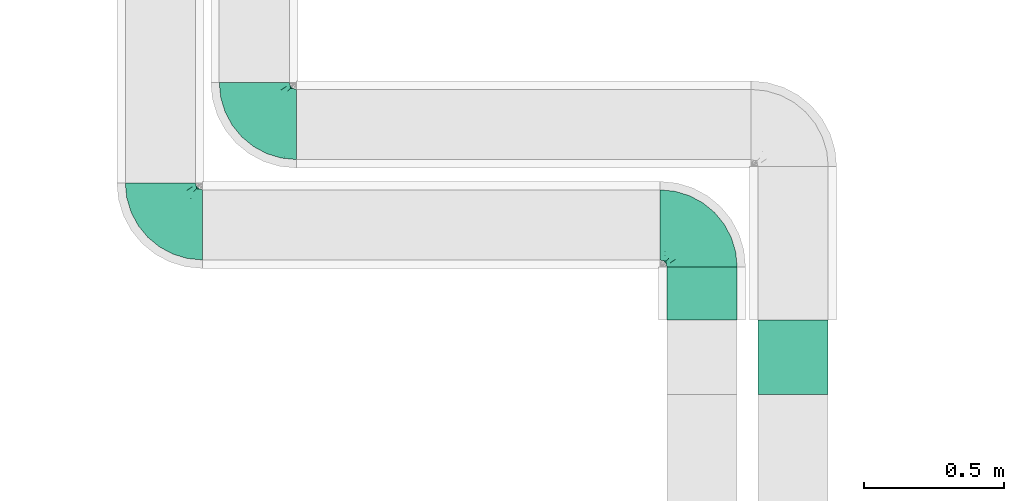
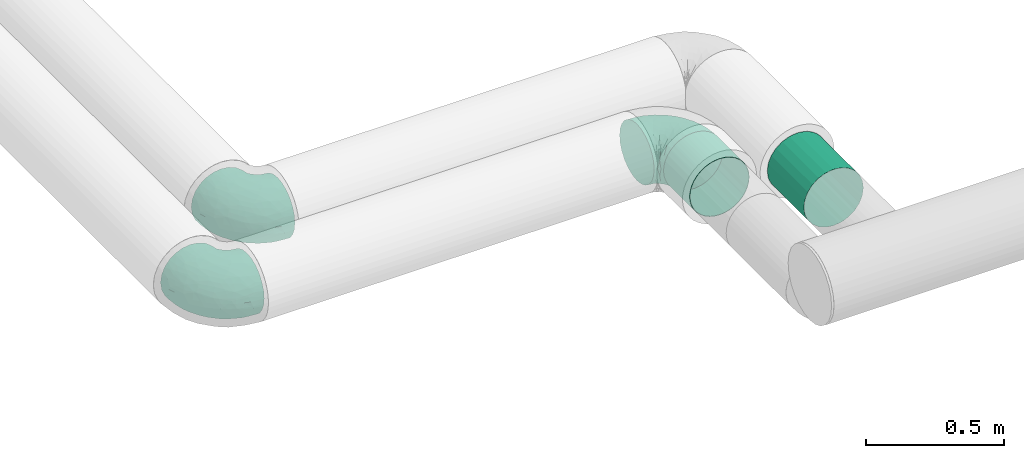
# One storey, part 11 of 36: 3 flow fittings, 1 flow controller, 1 flow segment.
"""IFC2X3 building model written with IfcOpenShell, lengths in millimetres."""

from ifc_helpers import new_model, entity, si_unit, converted_unit, derived_unit, direction, frame, origin_with_axes, origin_2d_with_axis, place, context, subcontext, project, spatial, hollow_circle, extrude, open_shell, surface_model, source, transform, mapped, type_object, element, save


model = new_model("IFC2X3")

# Units and contexts
model_context = context("Model", 3, precision=0.01, world=frame((0.0, 4.29681676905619e-09, 0.0)), true_north=direction((4.01073788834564e-13, 1.0)))
plan_context = context("Plan", 3, precision=0.01, world=frame((0.0, 4.29681676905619e-09, 0.0)), true_north=direction((4.01073788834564e-13, 1.0)))
body_context = subcontext(model_context, "Body", "Model", "MODEL_VIEW")
ifc_project = project(units=[converted_unit("PLANEANGLEUNIT", "DEGREE", entity("IfcPositiveLengthMeasure", 0.0174532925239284), si_unit("PLANEANGLEUNIT", "RADIAN"), dimensions=[0, 0, 0, 0, 0, 0, 0]), si_unit("AREAUNIT", "SQUARE_METRE"), si_unit("LENGTHUNIT", "METRE", prefix="MILLI"), si_unit("MASSUNIT", "GRAM", prefix="KILO"), si_unit("POWERUNIT", "WATT"), si_unit("PRESSUREUNIT", "PASCAL"), si_unit("FORCEUNIT", "NEWTON", prefix="KILO"), si_unit("ELECTRICCURRENTUNIT", "AMPERE"), si_unit("THERMODYNAMICTEMPERATUREUNIT", "DEGREE_CELSIUS"), si_unit("TIMEUNIT", "SECOND"), si_unit("VOLUMEUNIT", "CUBIC_METRE"), derived_unit("LINEARVELOCITYUNIT", [(si_unit("LENGTHUNIT", "METRE"), 1), (si_unit("TIMEUNIT", "SECOND"), -1)]), derived_unit("VOLUMETRICFLOWRATEUNIT", [(si_unit("VOLUMEUNIT", "CUBIC_METRE"), 1), (si_unit("TIMEUNIT", "SECOND"), -1)]), derived_unit("THERMALTRANSMITTANCEUNIT", [(si_unit("POWERUNIT", "WATT"), 1), (si_unit("THERMODYNAMICTEMPERATUREUNIT", "KELVIN"), -1), (si_unit("AREAUNIT", "SQUARE_METRE"), -1)])], contexts=[model_context, plan_context])

# Site, building, storey
site_placement = place(None, frame((0.0, -4.29681676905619e-09, 0.0), z_axis=(0.0, 0.0, 1.0), x_axis=(1.0, 0.0, 0.0)))
site = spatial("IfcSite", under=ifc_project, at=site_placement, CompositionType="ELEMENT")
building_placement = place(site_placement, frame((0.0, 4.29681676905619e-09, 0.0), z_axis=(0.0, 0.0, 1.0), x_axis=(1.0, 0.0, 0.0)))
building = spatial("IfcBuilding", under=site, at=building_placement, Name="mc-building", CompositionType="ELEMENT")
storey_placement = place(building_placement, frame((0.0, 0.0, 204000.0), z_axis=(0.0, 0.0, 1.0), x_axis=(1.0, 0.0, 0.0)))
storey = spatial("IfcBuildingStorey", under=building, at=storey_placement, Name="Nivå D", CompositionType="ELEMENT", Elevation=204000.0)

# Flow controller
damper_type = type_object("IfcDamperType", Name="IGNIS-C-EI60-250", PredefinedType="FIREDAMPER")
shared_shape_1 = source(origin_with_axes(), body_context, "Body", "SurfaceModel", [
    surface_model("IfcShellBasedSurfaceModel", [(132.5, 62.25, -107.82016), (132.5, 88.0348, -88.0348), (132.5, 62.15, -107.64695), (132.5, 32.17121, -120.06458), (132.5, 0.0, -124.3), (132.5, 32.22297, -120.25777), (132.5, 0.0, -124.5), (132.5, 87.89337, -87.89337), (132.5, 120.25777, -32.22297), (132.5, 124.3, 0.0), (132.5, 120.06458, -32.17121), (132.5, 124.5, 0.0), (132.5, 107.82016, -62.25), (132.5, 107.64695, -62.15), (132.5, -32.17121, -120.06458), (132.5, -32.22297, -120.25777), (132.5, -62.15, -107.64695), (132.5, -88.0348, -88.0348), (132.5, -62.25, -107.82016), (132.5, -87.89337, -87.89337), (132.5, -107.64695, -62.15), (132.5, -107.82016, -62.25), (132.5, -120.06458, -32.17121), (132.5, -120.25777, -32.22297), (132.5, -124.3, 0.0), (132.5, -124.5, 0.0), (132.5, 120.25777, 32.22297), (132.5, 120.06458, 32.17121), (132.5, 107.64695, 62.15), (132.5, 107.82016, 62.25), (132.5, 87.89337, 87.89337), (132.5, 88.0348, 88.0348), (132.5, 62.25, 107.82016), (132.5, 62.15, 107.64695), (132.5, 32.17121, 120.06458), (132.5, 32.22297, 120.25777), (132.5, 0.0, 124.3), (132.5, 0.0, 124.5), (132.5, -107.82016, 62.25), (132.5, -107.64695, 62.15), (132.5, -88.0348, 88.0348), (132.5, -87.89337, 87.89337), (132.5, -120.25777, 32.22297), (132.5, -120.06458, 32.17121), (132.5, -32.17121, 120.06458), (132.5, -32.22297, 120.25777), (132.5, -62.15, 107.64695), (132.5, -62.25, 107.82016), (-132.5, 62.25, 107.82016), (-132.5, 88.0348, 88.0348), (-132.5, 62.15, 107.64695), (-132.5, 32.17121, 120.06458), (-132.5, 0.0, 124.3), (-132.5, 32.22297, 120.25777), (-132.5, 0.0, 124.5), (-132.5, 87.89337, 87.89337), (-132.5, 120.25777, 32.22297), (-132.5, 124.3, 0.0), (-132.5, 120.06458, 32.17121), (-132.5, 124.5, 0.0), (-132.5, 107.82016, 62.25), (-132.5, 107.64695, 62.15), (-132.5, -32.17121, 120.06458), (-132.5, -32.22297, 120.25777), (-132.5, -62.15, 107.64695), (-132.5, -88.0348, 88.0348), (-132.5, -62.25, 107.82016), (-132.5, -87.89337, 87.89337), (-132.5, -107.64695, 62.15), (-132.5, -107.82016, 62.25), (-132.5, -120.06458, 32.17121), (-132.5, -120.25777, 32.22297), (-132.5, -124.3, 0.0), (-132.5, -124.5, 0.0), (-132.5, 120.25777, -32.22297), (-132.5, 120.06458, -32.17121), (-132.5, 107.64695, -62.15), (-132.5, 107.82016, -62.25), (-132.5, 87.89337, -87.89337), (-132.5, 88.0348, -88.0348), (-132.5, 62.25, -107.82016), (-132.5, 62.15, -107.64695), (-132.5, 32.17121, -120.06458), (-132.5, 32.22297, -120.25777), (-132.5, 0.0, -124.3), (-132.5, 0.0, -124.5), (-132.5, -107.82016, -62.25), (-132.5, -107.64695, -62.15), (-132.5, -88.0348, -88.0348), (-132.5, -87.89337, -87.89337), (-132.5, -120.25777, -32.22297), (-132.5, -120.06458, -32.17121), (-132.5, -32.17121, -120.06458), (-132.5, -32.22297, -120.25777), (-132.5, -62.15, -107.64695), (-132.5, -62.25, -107.82016)], [open_shell([[[0, 1, 2]], [[0, 2, 3]], [[4, 5, 3]], [[5, 4, 6]], [[3, 5, 0]], [[2, 1, 7]], [[8, 9, 10]], [[9, 8, 11]], [[8, 10, 12]], [[7, 12, 13]], [[12, 7, 1]], [[13, 12, 10]], [[6, 14, 15]], [[15, 14, 16]], [[17, 18, 19]], [[16, 18, 15]], [[16, 19, 18]], [[6, 4, 14]], [[20, 21, 17]], [[21, 20, 22]], [[20, 17, 19]], [[23, 22, 24]], [[22, 23, 21]], [[23, 24, 25]], [[11, 26, 27]], [[27, 26, 28]], [[28, 29, 30]], [[29, 28, 26]], [[30, 29, 31]], [[31, 32, 33]], [[33, 32, 34]], [[34, 35, 36]], [[35, 34, 32]], [[36, 35, 37]], [[33, 30, 31]], [[38, 39, 40]], [[40, 39, 41]], [[39, 38, 42]], [[25, 43, 42]], [[42, 43, 39]], [[25, 24, 43]], [[44, 37, 45]], [[44, 45, 46]], [[41, 47, 40]], [[41, 46, 47]], [[47, 46, 45]], [[36, 37, 44]], [[27, 9, 11]], [[48, 49, 50]], [[48, 50, 51]], [[52, 53, 51]], [[53, 52, 54]], [[51, 53, 48]], [[50, 49, 55]], [[56, 57, 58]], [[57, 56, 59]], [[56, 58, 60]], [[55, 60, 61]], [[60, 55, 49]], [[61, 60, 58]], [[54, 62, 63]], [[63, 62, 64]], [[65, 66, 67]], [[64, 66, 63]], [[64, 67, 66]], [[54, 52, 62]], [[68, 69, 65]], [[69, 68, 70]], [[68, 65, 67]], [[71, 70, 72]], [[70, 71, 69]], [[71, 72, 73]], [[59, 74, 75]], [[75, 74, 76]], [[76, 77, 78]], [[77, 76, 74]], [[78, 77, 79]], [[79, 80, 81]], [[81, 80, 82]], [[82, 83, 84]], [[83, 82, 80]], [[84, 83, 85]], [[81, 78, 79]], [[86, 87, 88]], [[88, 87, 89]], [[87, 86, 90]], [[73, 91, 90]], [[90, 91, 87]], [[73, 72, 91]], [[92, 85, 93]], [[92, 93, 94]], [[89, 95, 88]], [[89, 94, 95]], [[95, 94, 93]], [[84, 85, 92]], [[75, 57, 59]], [[23, 90, 86]], [[88, 21, 86]], [[18, 95, 93]], [[88, 95, 17]], [[15, 93, 85]], [[90, 25, 73]], [[90, 23, 25]], [[86, 21, 23]], [[88, 17, 21]], [[18, 17, 95]], [[93, 15, 18]], [[85, 6, 15]], [[5, 83, 80]], [[79, 0, 80]], [[12, 77, 74]], [[79, 77, 1]], [[8, 74, 59]], [[83, 5, 6]], [[80, 0, 5]], [[79, 1, 0]], [[77, 12, 1]], [[8, 12, 74]], [[59, 11, 8]], [[83, 6, 85]], [[59, 56, 26]], [[53, 32, 48]], [[48, 31, 49]], [[35, 53, 54]], [[59, 26, 11]], [[26, 56, 60]], [[26, 60, 29]], [[60, 49, 29]], [[49, 31, 29]], [[32, 31, 48]], [[53, 35, 32]], [[54, 37, 35]], [[45, 63, 66]], [[65, 47, 66]], [[38, 69, 71]], [[65, 69, 40]], [[42, 71, 73]], [[63, 45, 37]], [[66, 47, 45]], [[65, 40, 47]], [[69, 38, 40]], [[42, 38, 71]], [[73, 25, 42]], [[63, 37, 54]], [[87, 91, 22]], [[87, 20, 89]], [[92, 94, 16]], [[19, 94, 89]], [[84, 92, 14]], [[72, 24, 91]], [[24, 22, 91]], [[22, 20, 87]], [[20, 19, 89]], [[94, 19, 16]], [[16, 14, 92]], [[14, 4, 84]], [[81, 82, 3]], [[81, 2, 78]], [[75, 76, 13]], [[7, 76, 78]], [[57, 75, 10]], [[4, 3, 82]], [[3, 2, 81]], [[2, 7, 78]], [[7, 13, 76]], [[75, 13, 10]], [[10, 9, 57]], [[84, 4, 82]], [[27, 58, 57]], [[50, 33, 51]], [[55, 30, 50]], [[52, 51, 34]], [[9, 27, 57]], [[61, 58, 27]], [[28, 61, 27]], [[28, 55, 61]], [[28, 30, 55]], [[50, 30, 33]], [[33, 34, 51]], [[34, 36, 52]], [[64, 62, 44]], [[64, 46, 67]], [[70, 68, 39]], [[41, 68, 67]], [[72, 70, 43]], [[36, 44, 62]], [[44, 46, 64]], [[46, 41, 67]], [[41, 39, 68]], [[70, 39, 43]], [[43, 24, 72]], [[52, 36, 62]]])]),
])
flow_controller_placement = place(storey_placement, frame((516832.18938, 414623.75, 2614.0), z_axis=(0.0, 0.0, 1.0), x_axis=(0.0, -1.0, 0.0)))
element("IfcFlowController", 1, at=flow_controller_placement, inside=storey, type_object=damper_type, Name="IGNIS-C-EI60-250", context=body_context, shape_type="MappedRepresentation", body=[
    mapped(shared_shape_1, transform((0.0, 0.0, 0.0), scale=1.0)),
])

# Flow fittings
duct_fitting_type = type_object("IfcDuctFittingType", Name="magicirc_elbow_short_001", PredefinedType="BEND")
shared_shape_2 = source(origin_with_axes(), body_context, "Body", "SurfaceModel", [
    surface_model("IfcShellBasedSurfaceModel", [(-150.0, 0.0, -125.0), (-150.0, -32.35238, -120.74073), (-150.0, 32.35238, -120.74073), (-150.0, 62.5, -108.25318), (-150.0, 88.38835, -88.38835), (-150.0, 108.25318, -62.5), (-150.0, 120.74073, -32.35238), (-150.0, -62.5, -108.25318), (-150.0, -88.38835, -88.38835), (-150.0, -125.0, 0.0), (-150.0, -108.25318, -62.5), (-150.0, -120.74073, -32.35238), (-150.0, 125.0, 0.0), (-150.0, -120.74073, 32.35238), (-150.0, 120.74073, 32.35238), (-150.0, 108.25318, 62.5), (-150.0, 32.35238, 120.74073), (-150.0, 62.5, 108.25318), (-150.0, 88.38835, 88.38835), (-150.0, -88.38835, 88.38835), (-150.0, -108.25318, 62.5), (-150.0, -32.35238, 120.74073), (-150.0, 0.0, 125.0), (-150.0, -62.5, 108.25318), (-32.35238, 150.0, -120.74073), (88.38835, 150.0, -88.38835), (0.0, 150.0, -125.0), (-88.38835, 150.0, -88.38835), (-62.5, 150.0, -108.25318), (-108.25318, 150.0, -62.5), (-120.74073, 150.0, -32.35238), (88.38835, 150.0, 88.38835), (32.35238, 150.0, -120.74073), (62.5, 150.0, -108.25318), (120.74073, 150.0, -32.35238), (108.25318, 150.0, -62.5), (125.0, 150.0, 0.0), (-125.0, 150.0, 0.0), (-120.74073, 150.0, 32.35238), (-32.35238, 150.0, 120.74073), (-108.25318, 150.0, 62.5), (-88.38835, 150.0, 88.38835), (-62.5, 150.0, 108.25318), (120.74073, 150.0, 32.35238), (108.25318, 150.0, 62.5), (62.5, 150.0, 108.25318), (0.0, 150.0, 125.0), (32.35238, 150.0, 120.74073), (3.43621, -49.5686, 72.62973), (-18.36868, -48.37229, 88.70337), (-18.83692, -66.65046, 70.44253), (-111.90441, -117.21345, 35.28889), (-118.95041, -121.94188, 0.0), (25.86906, 108.55436, 121.17479), (-75.7772, -90.32158, 72.9261), (-74.87608, -74.03385, 90.43438), (-106.18274, -83.07991, 89.59712), (-96.35016, -119.71595, 0.0), (-46.47779, 70.62109, 123.46212), (-76.11794, 76.11794, 116.41901), (-69.40624, 48.8823, 123.2752), (-124.4932, -102.85852, 69.13391), (61.55426, -23.61809, 0.0), (70.72079, -10.51336, 22.73937), (52.73629, -32.74631, 22.58023), (-124.77817, -54.06971, 111.94259), (-90.65624, -57.4337, 106.30719), (32.14495, -52.26832, 26.33949), (-0.28194, -75.27927, 33.26458), (23.61809, -61.55426, 0.0), (-95.68999, 131.65378, 83.88297), (-69.77814, 120.80048, 106.99559), (-67.0959, -108.40643, 29.86559), (-70.55611, -111.89141, 0.0), (-44.76206, -104.06687, 0.0), (-59.72745, 94.86231, 116.91683), (-108.55438, -25.86905, 121.17479), (54.06971, 124.77816, 111.94259), (-27.02672, -92.24399, 28.66038), (-115.00313, 7.3209, 124.96177), (37.68395, -37.68396, 47.97943), (-29.53309, 7.28525, 119.4722), (-3.39232, -9.52602, 105.74117), (0.96712, 29.12319, 117.22512), (-136.08989, 114.55349, 55.66419), (-123.43379, 95.73566, 87.17875), (-119.07435, 119.07435, 65.82439), (-129.09162, 129.09162, 33.48663), (-137.5, 128.34936, 0.0), (-121.4114, 69.81738, 106.84783), (-150.0, 47.42619, 114.49695), (-128.63564, 33.72653, 120.89263), (-27.58141, -83.17169, 52.68646), (-47.99632, -78.87458, 74.22581), (-54.84475, -96.13379, 51.52422), (103.28598, 90.85645, 59.18699), (90.74371, 74.5558, 71.84785), (96.43496, 48.91625, 45.66343), (-41.1276, 38.26732, 124.85571), (102.85852, 124.4932, 69.13391), (83.07991, 106.18274, 89.59712), (-94.00852, 107.9804, 96.05098), (74.96021, 76.43193, 90.06036), (117.21345, 111.90441, 35.28889), (121.94188, 118.95041, 0.0), (-47.30293, -61.16044, 91.82798), (78.87458, 47.99631, 74.22581), (76.94281, 15.76685, 52.00246), (-101.88517, 84.02177, 104.66367), (110.18665, 71.48082, 28.20521), (111.89141, 70.55611, 0.0), (55.40218, 7.25052, 74.8198), (24.63024, -24.60151, 78.91029), (58.21029, -16.89277, 44.41752), (57.4337, 90.65623, 106.30718), (30.02154, 57.30162, 113.4468), (-128.34936, 137.5, 0.0), (-73.97464, 6.61086, 124.39367), (-33.52256, 127.66016, 120.99202), (-7.19958, 114.11429, 124.96953), (-18.42999, 93.20127, 124.82066), (14.9991, 81.71173, 121.69074), (-109.70554, 132.7303, 65.99174), (-81.52168, -16.35182, 121.37252), (-56.488, -29.68334, 113.41267), (55.20354, 44.94313, 95.60044), (-90.85645, -103.28598, 59.18699), (-26.43187, -29.68413, 104.83883), (-7.20961, 68.77767, 124.18226), (30.67747, 15.69438, 99.90432), (-47.42619, 150.0, 114.49695), (-107.88822, 38.92177, 121.04182), (-96.15013, 61.71268, 115.9946), (-96.31285, 19.15333, 124.70605), (14.59493, -56.28029, 51.4962), (104.06687, 44.76206, 0.0), (102.01943, 45.4582, 23.12647), (89.00824, 19.09141, 24.82271), (119.71595, 96.35016, 0.0), (-20.99012, -91.36051, 0.0), (78.65415, -2.78181, 0.0), (91.36051, 20.99012, 0.0), (2.78181, -78.65415, 0.0), (44.45436, -44.45436, 0.0), (-38.84807, 105.96939, 121.23578), (-120.80048, 69.77814, -106.99559), (54.06971, 124.77816, -111.94259), (-90.65624, -57.4337, -106.30719), (-124.77817, -54.06971, -111.94259), (-108.55438, -25.86906, -121.17479), (-18.36869, -48.37229, -88.70338), (-18.83692, -66.65046, -70.44253), (-47.30293, -61.16045, -91.82798), (-96.31285, 19.15333, -124.70605), (-73.97463, 6.61086, -124.39367), (-115.00313, 7.3209, -124.96177), (14.9991, 81.71175, -121.69074), (25.86906, 108.55438, -121.17479), (30.02154, 57.30164, -113.44681), (-129.09162, 129.09162, -33.48663), (-95.73566, 123.43379, -87.17875), (-84.02176, 101.88516, -104.66368), (-107.9804, 94.00852, -96.05098), (-0.28194, -75.27927, -33.26458), (-131.65378, 95.68999, -83.88297), (-132.7303, 109.70554, -65.99174), (-107.88822, 38.92177, -121.04182), (-128.63564, 33.72653, -120.89263), (-119.07435, 119.07435, -65.82439), (-111.90441, -117.21345, -35.28889), (-76.11794, 76.11793, -116.41901), (-69.69403, 48.67006, -123.27304), (-95.38125, 59.83873, -116.77822), (-106.18274, -83.07991, -89.59712), (-3.39231, -9.52602, -105.74117), (24.63023, -24.60151, -78.91029), (-54.84475, -96.13379, -51.52422), (-75.7772, -90.32158, -72.9261), (-47.99632, -78.87458, -74.22581), (-124.4932, -102.85852, -69.13391), (30.67749, 15.69438, -99.9043), (0.96713, 29.12319, -117.22511), (-69.81738, 121.4114, -106.84784), (-27.02672, -92.24399, -28.66038), (-67.0959, -108.40643, -29.86559), (78.87458, 47.99631, -74.22581), (96.43495, 48.9163, -45.66349), (76.94285, 15.76686, -52.00241), (37.68395, -37.68396, -47.97943), (58.21029, -16.89277, -44.41752), (52.73629, -32.74631, -22.58023), (-48.07357, 68.7261, -123.44788), (-114.55349, 136.08989, -55.66419), (117.21345, 111.90441, -35.28889), (-7.19958, 114.11428, -124.96953), (-27.58141, -83.17169, -52.68646), (-47.42619, 150.0, -114.49695), (-33.52256, 127.66015, -120.99202), (32.14495, -52.26832, -26.33949), (14.59493, -56.28029, -51.4962), (83.07991, 106.18274, -89.59712), (102.85852, 124.4932, -69.13391), (89.00829, 19.0915, -24.82265), (70.72079, -10.51336, -22.73937), (57.4337, 90.65623, -106.30719), (110.18664, 71.4808, -28.20522), (102.0194, 45.45816, -23.12649), (-90.85645, -103.28598, -59.18699), (90.01217, 76.65037, -73.68876), (73.67235, 74.27652, -90.57836), (-29.53307, 7.28526, -119.4722), (-56.488, -29.68334, -113.41267), (-74.87608, -74.03385, -90.43438), (-81.52167, -16.35182, -121.37252), (-26.43187, -29.68413, -104.83883), (103.28598, 90.85645, -59.18699), (-18.42999, 93.20126, -124.82066), (-38.84807, 105.96939, -121.23578), (55.20355, 44.94317, -95.60045), (-150.0, 47.42619, -114.49695), (55.40223, 7.25057, -74.81978), (-61.71268, 96.15012, -115.9946), (-41.12759, 38.26731, -124.85571), (3.43621, -49.56858, -72.62973), (-7.2096, 68.77766, -124.18226)], [open_shell([[[0, 1, 2]], [[3, 2, 4]], [[1, 5, 2]], [[4, 2, 5]], [[5, 1, 6]], [[7, 8, 1]], [[9, 1, 8]], [[10, 11, 8]], [[9, 8, 11]], [[9, 6, 1]], [[9, 12, 6]], [[12, 13, 14]], [[15, 14, 16]], [[16, 17, 18]], [[15, 16, 18]], [[16, 14, 19]], [[20, 19, 13]], [[19, 14, 13]], [[21, 22, 23]], [[19, 23, 22]], [[19, 22, 16]], [[9, 13, 12]], [[24, 25, 26]], [[27, 24, 28]], [[29, 30, 24]], [[29, 24, 27]], [[24, 31, 25]], [[32, 25, 33]], [[32, 26, 25]], [[25, 34, 35]], [[34, 25, 36]], [[25, 31, 36]], [[24, 30, 37]], [[38, 31, 37]], [[39, 38, 40]], [[41, 42, 39]], [[41, 39, 40]], [[31, 38, 39]], [[43, 31, 44]], [[36, 31, 43]], [[45, 46, 47]], [[46, 45, 31]], [[39, 46, 31]], [[31, 24, 37]], [[48, 49, 50]], [[51, 13, 52]], [[53, 47, 46]], [[54, 55, 56]], [[52, 57, 51]], [[58, 59, 60]], [[20, 61, 19]], [[62, 63, 64]], [[65, 56, 66]], [[67, 68, 69]], [[41, 70, 71]], [[72, 73, 74]], [[59, 58, 75]], [[21, 76, 22]], [[77, 45, 47]], [[23, 19, 56]], [[72, 74, 78]], [[79, 16, 22]], [[76, 21, 65]], [[80, 67, 64]], [[81, 82, 83]], [[84, 85, 86]], [[87, 12, 14]], [[12, 87, 88]], [[18, 17, 89]], [[51, 20, 13]], [[18, 89, 85]], [[17, 90, 91]], [[84, 14, 15]], [[91, 90, 16]], [[92, 93, 94]], [[40, 70, 41]], [[95, 96, 97]], [[83, 98, 81]], [[44, 31, 99]], [[100, 31, 45]], [[86, 85, 101]], [[102, 96, 100]], [[103, 104, 43]], [[66, 55, 105]], [[77, 100, 45]], [[103, 43, 44]], [[97, 106, 107]], [[85, 15, 18]], [[108, 85, 89]], [[85, 84, 15]], [[103, 109, 110]], [[111, 112, 113]], [[114, 53, 115]], [[88, 87, 116]], [[60, 117, 98]], [[116, 87, 37]], [[85, 108, 101]], [[38, 37, 87]], [[71, 118, 42]], [[119, 120, 121]], [[122, 38, 87]], [[70, 122, 101]], [[123, 76, 124]], [[114, 115, 125]], [[119, 53, 46]], [[42, 41, 71]], [[77, 53, 114]], [[72, 78, 94]], [[54, 126, 94]], [[21, 23, 65]], [[124, 76, 66]], [[61, 56, 19]], [[76, 123, 79]], [[93, 105, 55]], [[124, 127, 81]], [[102, 100, 114]], [[99, 100, 95]], [[46, 39, 119]], [[115, 121, 128]], [[128, 83, 115]], [[115, 83, 129]], [[75, 101, 59]], [[118, 39, 130]], [[106, 111, 107]], [[125, 111, 106]], [[131, 89, 17]], [[108, 132, 59]], [[118, 119, 39]], [[119, 118, 120]], [[51, 57, 73]], [[61, 51, 126]], [[99, 103, 44]], [[109, 95, 97]], [[76, 79, 22]], [[133, 79, 117]], [[83, 128, 98]], [[129, 83, 82]], [[128, 120, 58]], [[59, 132, 60]], [[129, 82, 112]], [[125, 115, 129]], [[49, 112, 82]], [[80, 134, 67]], [[127, 49, 82]], [[93, 92, 50]], [[111, 125, 129]], [[125, 106, 102]], [[112, 111, 129]], [[111, 113, 107]], [[98, 117, 81]], [[124, 81, 117]], [[63, 113, 64]], [[135, 109, 136]], [[137, 97, 107]], [[97, 136, 109]], [[110, 138, 103]], [[103, 95, 109]], [[78, 74, 139]], [[73, 72, 51]], [[51, 72, 126]], [[68, 134, 50]], [[72, 94, 126]], [[92, 94, 78]], [[54, 94, 93]], [[63, 107, 113]], [[137, 140, 141]], [[68, 92, 78]], [[50, 49, 105]], [[78, 142, 68]], [[68, 142, 69]], [[67, 69, 143]], [[64, 67, 143]], [[68, 67, 134]], [[68, 50, 92]], [[48, 50, 134]], [[80, 48, 134]], [[112, 49, 48]], [[62, 140, 63]], [[80, 64, 113]], [[140, 137, 63]], [[107, 63, 137]], [[64, 143, 62]], [[113, 112, 80]], [[48, 80, 112]], [[55, 54, 93]], [[56, 126, 54]], [[93, 50, 105]], [[56, 55, 66]], [[127, 105, 49]], [[66, 105, 124]], [[132, 108, 89]], [[101, 108, 59]], [[89, 131, 132]], [[60, 98, 58]], [[132, 131, 60]], [[60, 131, 133]], [[128, 58, 98]], [[75, 58, 144]], [[144, 71, 75]], [[101, 75, 71]], [[122, 70, 40]], [[136, 141, 135]], [[71, 70, 101]], [[38, 122, 40]], [[101, 122, 86]], [[84, 87, 14]], [[122, 87, 86]], [[13, 9, 52]], [[104, 103, 138]], [[104, 36, 43]], [[87, 84, 86]], [[51, 61, 20]], [[56, 61, 126]], [[56, 65, 23]], [[76, 65, 66]], [[100, 99, 31]], [[103, 99, 95]], [[53, 77, 47]], [[100, 77, 114]], [[118, 71, 144]], [[120, 118, 144]], [[42, 118, 130]], [[79, 133, 91]], [[79, 91, 16]], [[17, 91, 131]], [[124, 117, 123]], [[79, 123, 117]], [[125, 102, 114]], [[96, 102, 106]], [[97, 96, 106]], [[100, 96, 95]], [[115, 53, 121]], [[119, 121, 53]], [[58, 120, 144]], [[121, 120, 128]], [[60, 133, 117]], [[91, 133, 131]], [[81, 127, 82]], [[105, 127, 124]], [[97, 137, 136]], [[141, 136, 137]], [[109, 135, 110]], [[139, 142, 78]], [[4, 145, 3]], [[32, 33, 146]], [[147, 148, 149]], [[150, 151, 152]], [[153, 154, 155]], [[156, 157, 158]], [[88, 159, 12]], [[160, 161, 162]], [[159, 6, 12]], [[142, 163, 69]], [[162, 164, 165]], [[3, 166, 167]], [[168, 160, 162]], [[159, 165, 6]], [[10, 169, 11]], [[169, 52, 11]], [[170, 171, 172]], [[7, 148, 173]], [[174, 175, 150]], [[176, 177, 178]], [[149, 1, 0]], [[34, 36, 104]], [[10, 8, 179]], [[180, 174, 181]], [[161, 160, 182]], [[183, 74, 184]], [[8, 7, 173]], [[185, 186, 187]], [[188, 189, 190]], [[159, 88, 116]], [[155, 149, 0]], [[37, 30, 159]], [[171, 170, 191]], [[192, 30, 29]], [[193, 35, 34]], [[4, 164, 145]], [[192, 160, 168]], [[24, 26, 194]], [[148, 7, 1]], [[155, 0, 2]], [[157, 194, 26]], [[163, 183, 195]], [[196, 24, 197]], [[198, 163, 199]], [[182, 160, 27]], [[160, 29, 27]], [[200, 33, 25]], [[35, 201, 25]], [[187, 186, 202]], [[203, 62, 190]], [[32, 146, 157]], [[200, 204, 146]], [[205, 135, 206]], [[184, 169, 207]], [[104, 138, 193]], [[34, 104, 193]], [[27, 28, 182]], [[183, 142, 139]], [[32, 157, 26]], [[200, 208, 209]], [[210, 181, 174]], [[147, 149, 211]], [[177, 212, 178]], [[37, 159, 116]], [[179, 173, 207]], [[5, 164, 4]], [[211, 213, 154]], [[210, 211, 154]], [[214, 174, 150]], [[201, 200, 25]], [[208, 200, 215]], [[158, 157, 204]], [[216, 217, 197]], [[204, 209, 218]], [[172, 162, 170]], [[167, 2, 219]], [[180, 175, 174]], [[187, 189, 220]], [[182, 28, 197]], [[161, 221, 170]], [[194, 157, 156]], [[28, 196, 197]], [[179, 169, 10]], [[169, 73, 57]], [[193, 110, 205]], [[201, 193, 215]], [[2, 167, 155]], [[155, 154, 213]], [[180, 181, 158]], [[181, 210, 222]], [[154, 153, 171]], [[170, 221, 191]], [[158, 218, 180]], [[180, 218, 220]], [[175, 180, 220]], [[195, 178, 151]], [[151, 223, 199]], [[212, 152, 178]], [[204, 218, 158]], [[185, 187, 220]], [[185, 220, 218]], [[175, 220, 189]], [[210, 174, 214]], [[154, 222, 210]], [[208, 186, 185]], [[187, 202, 203]], [[205, 186, 215]], [[206, 141, 202]], [[215, 193, 205]], [[169, 184, 73]], [[74, 73, 184]], [[184, 176, 183]], [[176, 184, 207]], [[183, 176, 195]], [[177, 176, 207]], [[195, 176, 178]], [[206, 186, 205]], [[207, 173, 177]], [[178, 152, 151]], [[195, 151, 163]], [[69, 163, 198]], [[142, 183, 163]], [[69, 198, 143]], [[188, 198, 199]], [[190, 143, 198]], [[223, 151, 150]], [[163, 151, 199]], [[150, 175, 223]], [[188, 223, 175]], [[223, 188, 199]], [[175, 189, 188]], [[188, 190, 198]], [[190, 189, 203]], [[187, 203, 189]], [[202, 140, 203]], [[62, 203, 140]], [[62, 143, 190]], [[212, 173, 147]], [[173, 212, 177]], [[147, 211, 152]], [[147, 152, 212]], [[214, 152, 211]], [[221, 161, 182]], [[162, 161, 170]], [[182, 217, 221]], [[191, 222, 171]], [[221, 217, 191]], [[191, 217, 216]], [[154, 171, 222]], [[172, 166, 145]], [[166, 172, 171]], [[162, 172, 145]], [[165, 164, 5]], [[141, 140, 202]], [[145, 164, 162]], [[6, 165, 5]], [[162, 165, 168]], [[192, 159, 30]], [[165, 159, 168]], [[52, 169, 57]], [[52, 9, 11]], [[160, 192, 29]], [[159, 192, 168]], [[173, 179, 8]], [[169, 179, 207]], [[149, 148, 1]], [[173, 148, 147]], [[193, 201, 35]], [[200, 201, 215]], [[200, 146, 33]], [[157, 146, 204]], [[217, 182, 197]], [[24, 194, 197]], [[216, 197, 194]], [[166, 3, 145]], [[3, 167, 219]], [[167, 166, 153]], [[211, 149, 213]], [[155, 213, 149]], [[186, 208, 215]], [[209, 208, 185]], [[218, 209, 185]], [[200, 209, 204]], [[156, 216, 194]], [[167, 153, 155]], [[171, 153, 166]], [[152, 214, 150]], [[210, 214, 211]], [[141, 206, 135]], [[202, 186, 206]], [[110, 193, 138]], [[110, 135, 205]], [[74, 183, 139]], [[191, 224, 222]], [[181, 222, 224]], [[181, 224, 158]], [[158, 224, 156]], [[156, 224, 216]], [[191, 216, 224]]])]),
])
for number, where, z_axis, x_axis, name in (
    (2, (516507.72088, 415095.0, 2614.0), (0.0, 0.0, 1.0), (0.0, 1.0, 0.0), "magicirc_elbow_short_001"),
    (3, (514912.18938, 415452.77189, 2614.0), (0.0, 0.0, 1.0), (0.0, -1.0, 0.0), "magicirc_elbow_short_001"),
    (4, (514577.5, 415095.0, 2614.0), (0.0, 0.0, 1.0), (0.0, -1.0, 0.0), "magicirc_elbow_short_001"),
):
    element("IfcFlowFitting", number, at=place(storey_placement, frame(where, z_axis=z_axis, x_axis=x_axis)), inside=storey, type_object=duct_fitting_type, Name=name, context=body_context, shape_type="MappedRepresentation", body=[
        mapped(shared_shape_2, transform((0.0, 0.0, 0.0), scale=1.0)),
    ])

# Flow segment
duct_segment_type = type_object("IfcDuctSegmentType", Name="KK002T - Spiro kanaler, Forsinket stål, korte bend", PredefinedType="RIGIDSEGMENT")
shared_shape_3 = source(origin_with_axes(), body_context, "Body", "SweptSolid", [
    extrude(hollow_circle(Radius=125.0, WallThickness=2.0, at=origin_2d_with_axis()), frame((0.0, 0.0, 0.0), z_axis=(1.0, 0.0, 0.0), x_axis=(0.0, 1.0, 0.0)), (0.0, 0.0, 1.0), 188.7),
])
flow_segment_placement = place(storey_placement, frame((516507.72088, 414756.25, 2614.0), z_axis=(0.0, 0.0, 1.0), x_axis=(0.0, 1.0, 0.0)))
element("IfcFlowSegment", 5, at=flow_segment_placement, inside=storey, type_object=duct_segment_type, Name="KK002T - Spiro kanaler, Forsinket stål, korte bend", context=body_context, shape_type="MappedRepresentation", body=[
    mapped(shared_shape_3, transform((0.0, 0.0, 0.0), scale=1.0)),
])

save(model, "model.ifc")
